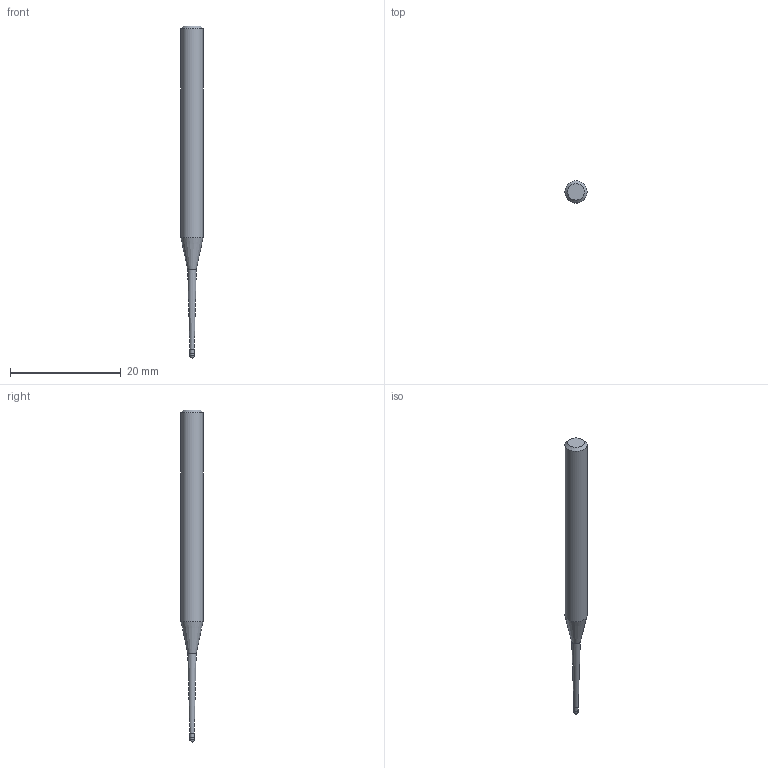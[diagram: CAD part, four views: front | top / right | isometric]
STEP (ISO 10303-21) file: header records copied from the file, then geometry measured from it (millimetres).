
FILE_DESCRIPTION((''),'2;1');
FILE_NAME('C:\Users\nsx150\AppData\Local\Temp\Mastercam 2021\SNAKH10GOD\TEMP.step','2021-10-21T13:31:56',(''),(''),'STEP Write','Mastercam 2021 ... CNC Software, Inc.','');
FILE_SCHEMA(('AUTOMOTIVE_DESIGN'));
Length unit declared in the file: millimetre
Products named in the file (1): None
Bounding box: 4 x 4 x 60 mm (x, y, z)
Volume: 532.9 mm3; surface area: 598.2 mm2
Topology: 2 solids, 2 shells, 10 faces, 16 edges, 9 vertices
Faces by surface type: plane 3, cylinder 3, cone 3, sphere 1
Full cylindrical faces by diameter (mm): 0.785 x1, 0.8 x1, 4 x1
Entity records: 232 total; most frequent: DIRECTION 40, CARTESIAN_POINT 28, AXIS2_PLACEMENT_3D 20, ORIENTED_EDGE 16, EDGE_LOOP 16, STYLED_ITEM 13, ADVANCED_FACE 10, FACE_BOUND 9
